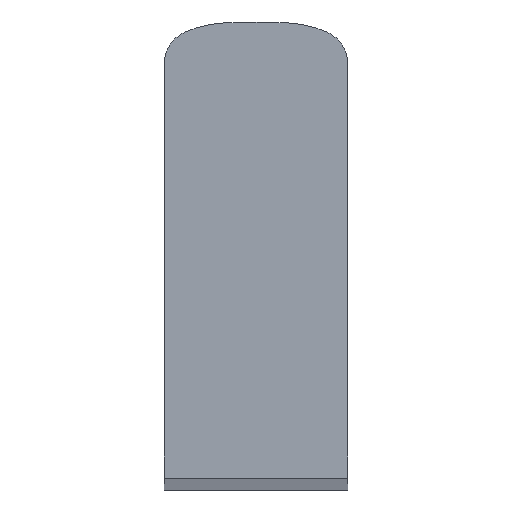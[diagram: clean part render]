
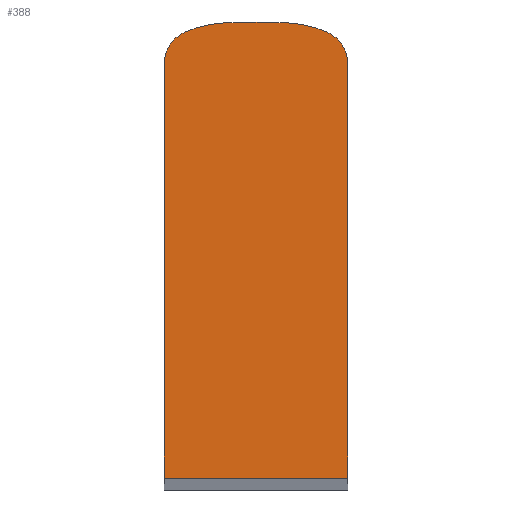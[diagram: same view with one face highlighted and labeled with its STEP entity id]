
A CAD part, top view. The second image highlights one B-rep face of the part: STEP entity #388.
In plain terms, the highlighted planar face has unit normal (0, 0, 1).
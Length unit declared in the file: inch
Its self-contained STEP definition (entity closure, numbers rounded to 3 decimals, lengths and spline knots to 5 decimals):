
#1 = CARTESIAN_POINT ( 'NONE',  ( 0.37583, 4.96574, 75. ) ) ;
#3 = AXIS2_PLACEMENT_3D ( 'NONE', #89, #390, #263 ) ;
#27 = EDGE_LOOP ( 'NONE', ( #116, #243, #425, #459, #299, #497, #294, #491, #286, #453 ) ) ;
#28 = LINE ( 'NONE', #532, #139 ) ;
#30 = EDGE_CURVE ( 'NONE', #338, #457, #471, .T. ) ;
#32 = VERTEX_POINT ( 'NONE', #136 ) ;
#40 = LINE ( 'NONE', #124, #467 ) ;
#44 = CARTESIAN_POINT ( 'NONE',  ( 0.60299, 4.48856, 75. ) ) ;
#45 = EDGE_CURVE ( 'NONE', #537, #112, #287, .T. ) ;
#46 = FACE_OUTER_BOUND ( 'NONE', #27, .T. ) ;
#48 = CARTESIAN_POINT ( 'NONE',  ( -0.60299, 4.48856, 75. ) ) ;
#49 = DIRECTION ( 'NONE',  ( 1., 0., 0. ) ) ;
#50 = CIRCLE ( 'NONE', #323, 1.19149 ) ;
#65 = AXIS2_PLACEMENT_3D ( 'NONE', #507, #266, #129 ) ;
#78 = DIRECTION ( 'NONE',  ( 0., 1., 0. ) ) ;
#85 = AXIS2_PLACEMENT_3D ( 'NONE', #369, #153, #327 ) ;
#86 = DIRECTION ( 'NONE',  ( -1., 0., 0. ) ) ;
#89 = CARTESIAN_POINT ( 'NONE',  ( 0., -0.46809, 75. ) ) ;
#90 = DIRECTION ( 'NONE',  ( 0., 0., 1. ) ) ;
#93 = CIRCLE ( 'NONE', #85, 0.3575 ) ;
#95 = CARTESIAN_POINT ( 'NONE',  ( -0.88536, 4.7936, 75. ) ) ;
#103 = CARTESIAN_POINT ( 'NONE',  ( -0.76874, 4.86975, 75. ) ) ;
#112 = VERTEX_POINT ( 'NONE', #95 ) ;
#116 = ORIENTED_EDGE ( 'NONE', *, *, #500, .F. ) ;
#124 = CARTESIAN_POINT ( 'NONE',  ( 1., 0., 75. ) ) ;
#129 = DIRECTION ( 'NONE',  ( -1., 0., 0. ) ) ;
#130 = VERTEX_POINT ( 'NONE', #103 ) ;
#136 = CARTESIAN_POINT ( 'NONE',  ( 1., 4.53125, 75. ) ) ;
#139 = VECTOR ( 'NONE', #163, 39.37008 ) ;
#142 = CARTESIAN_POINT ( 'NONE',  ( -1., 4.53125, 75. ) ) ;
#153 = DIRECTION ( 'NONE',  ( 0., 0., 1. ) ) ;
#157 = CARTESIAN_POINT ( 'NONE',  ( 0.29362, 3.77709, 75. ) ) ;
#160 = DIRECTION ( 'NONE',  ( -1., 0., 0. ) ) ;
#163 = DIRECTION ( 'NONE',  ( 0., -1., 0. ) ) ;
#167 = AXIS2_PLACEMENT_3D ( 'NONE', #157, #329, #490 ) ;
#176 = CARTESIAN_POINT ( 'NONE',  ( 1., 0., 75. ) ) ;
#186 = CIRCLE ( 'NONE', #3, 5.44681 ) ;
#192 = VERTEX_POINT ( 'NONE', #521 ) ;
#212 = CARTESIAN_POINT ( 'NONE',  ( 0.76874, 4.86975, 75. ) ) ;
#213 = EDGE_CURVE ( 'NONE', #130, #528, #50, .T. ) ;
#216 = DIRECTION ( 'NONE',  ( -1., 0., 0. ) ) ;
#225 = DIRECTION ( 'NONE',  ( -1., 0., 0. ) ) ;
#243 = ORIENTED_EDGE ( 'NONE', *, *, #332, .F. ) ;
#249 = LINE ( 'NONE', #296, #404 ) ;
#263 = DIRECTION ( 'NONE',  ( -1., 0., 0. ) ) ;
#266 = DIRECTION ( 'NONE',  ( 0., 0., -1. ) ) ;
#286 = ORIENTED_EDGE ( 'NONE', *, *, #45, .F. ) ;
#287 = CIRCLE ( 'NONE', #360, 0.3575 ) ;
#294 = ORIENTED_EDGE ( 'NONE', *, *, #213, .F. ) ;
#296 = CARTESIAN_POINT ( 'NONE',  ( -1., 0., 75. ) ) ;
#299 = ORIENTED_EDGE ( 'NONE', *, *, #373, .T. ) ;
#309 = CARTESIAN_POINT ( 'NONE',  ( -0.37583, 4.96574, 75. ) ) ;
#323 = AXIS2_PLACEMENT_3D ( 'NONE', #337, #525, #160 ) ;
#327 = DIRECTION ( 'NONE',  ( 1., 0., 0. ) ) ;
#329 = DIRECTION ( 'NONE',  ( 0., 0., 1. ) ) ;
#332 = EDGE_CURVE ( 'NONE', #32, #474, #28, .T. ) ;
#337 = CARTESIAN_POINT ( 'NONE',  ( -0.29362, 3.77709, 75. ) ) ;
#338 = VERTEX_POINT ( 'NONE', #458 ) ;
#340 = EDGE_CURVE ( 'NONE', #32, #338, #93, .T. ) ;
#345 = DIRECTION ( 'NONE',  ( 0., 0., -1. ) ) ;
#347 = PLANE ( 'NONE',  #65 ) ;
#350 = CARTESIAN_POINT ( 'NONE',  ( -0.6425, 4.53125, 75. ) ) ;
#353 = EDGE_CURVE ( 'NONE', #192, #537, #249, .T. ) ;
#357 = AXIS2_PLACEMENT_3D ( 'NONE', #48, #432, #86 ) ;
#360 = AXIS2_PLACEMENT_3D ( 'NONE', #350, #345, #225 ) ;
#369 = CARTESIAN_POINT ( 'NONE',  ( 0.6425, 4.53125, 75. ) ) ;
#373 = EDGE_CURVE ( 'NONE', #457, #416, #523, .T. ) ;
#388 = ADVANCED_FACE ( 'NONE', ( #46 ), #347, .F. ) ;
#389 = CIRCLE ( 'NONE', #357, 0.41567 ) ;
#390 = DIRECTION ( 'NONE',  ( 0., 0., -1. ) ) ;
#404 = VECTOR ( 'NONE', #78, 39.37008 ) ;
#416 = VERTEX_POINT ( 'NONE', #1 ) ;
#425 = ORIENTED_EDGE ( 'NONE', *, *, #340, .T. ) ;
#432 = DIRECTION ( 'NONE',  ( 0., 0., -1. ) ) ;
#446 = EDGE_CURVE ( 'NONE', #112, #130, #389, .T. ) ;
#453 = ORIENTED_EDGE ( 'NONE', *, *, #353, .F. ) ;
#456 = EDGE_CURVE ( 'NONE', #528, #416, #186, .T. ) ;
#457 = VERTEX_POINT ( 'NONE', #212 ) ;
#458 = CARTESIAN_POINT ( 'NONE',  ( 0.88536, 4.7936, 75. ) ) ;
#459 = ORIENTED_EDGE ( 'NONE', *, *, #30, .T. ) ;
#467 = VECTOR ( 'NONE', #216, 39.37008 ) ;
#471 = CIRCLE ( 'NONE', #516, 0.41567 ) ;
#474 = VERTEX_POINT ( 'NONE', #176 ) ;
#490 = DIRECTION ( 'NONE',  ( 1., 0., 0. ) ) ;
#491 = ORIENTED_EDGE ( 'NONE', *, *, #446, .F. ) ;
#497 = ORIENTED_EDGE ( 'NONE', *, *, #456, .F. ) ;
#500 = EDGE_CURVE ( 'NONE', #474, #192, #40, .T. ) ;
#507 = CARTESIAN_POINT ( 'NONE',  ( -0.6425, 4.53125, 75. ) ) ;
#516 = AXIS2_PLACEMENT_3D ( 'NONE', #44, #90, #49 ) ;
#521 = CARTESIAN_POINT ( 'NONE',  ( -1., 0., 75. ) ) ;
#523 = CIRCLE ( 'NONE', #167, 1.19149 ) ;
#525 = DIRECTION ( 'NONE',  ( 0., 0., -1. ) ) ;
#528 = VERTEX_POINT ( 'NONE', #309 ) ;
#532 = CARTESIAN_POINT ( 'NONE',  ( 1., 4.53125, 75. ) ) ;
#537 = VERTEX_POINT ( 'NONE', #142 ) ;
